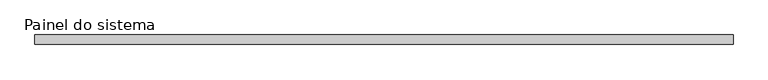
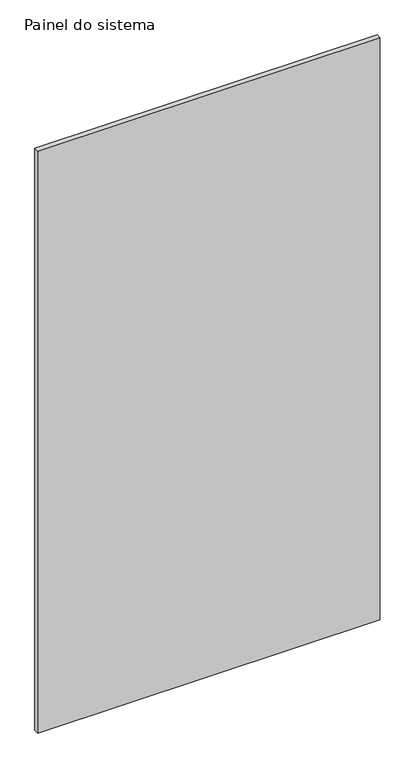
"""IFC4 building model written with IfcOpenShell, lengths in millimetres: plate geometry, Painel do sistema : Envidraçado."""

from ifc_helpers import new_model, si_unit, origin, origin_with_axes, place, context, project, spatial, polyline, outline, extrude, source, transform, mapped, element, save


def painel_do_sistema_4731f275(model_context):
    return source(origin(), model_context, "Body", "SweptSolid", [
        extrude(outline(polyline([(735.0, -10.0), (-735.0, -10.0), (-735.0, 10.0), (735.0, 10.0), (735.0, -10.0)])), origin_with_axes(), (0.0, 0.0, 1.0), 2640.0),
    ])


if __name__ == "__main__":
    model = new_model("IFC4")
    model_context = context("Model", 3, world=origin())
    ifc_project = project(units=[si_unit("LENGTHUNIT", "METRE", prefix="MILLI")], contexts=[model_context])
    site = spatial("IfcSite", under=ifc_project)
    building = spatial("IfcBuilding", under=site)
    placement = place(None, origin())
    painel_do_sistema_shape = painel_do_sistema_4731f275(model_context)
    element("IfcPlate", 1, ObjectType="Painel do sistema : Envidraçado", at=placement, inside=building, context=model_context, shape_type="MappedRepresentation", body=[
        mapped(painel_do_sistema_shape, transform((0.0, 0.0, 0.0), x_axis=(1.0, 0.0, 0.0), y_axis=(0.0, 1.0, 0.0), z_axis=(0.0, 0.0, 1.0))),
    ])
    save(model, "model.ifc")
